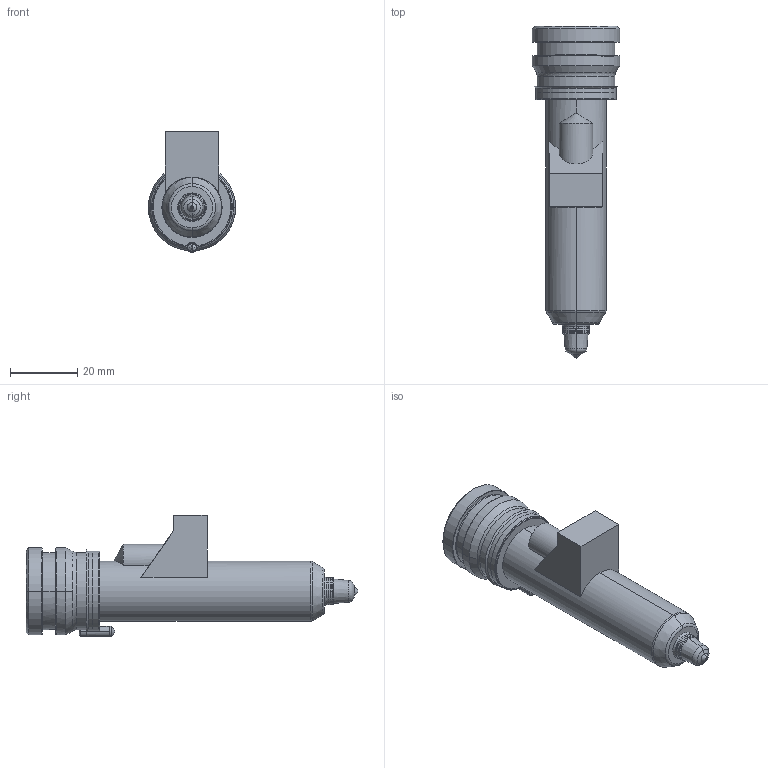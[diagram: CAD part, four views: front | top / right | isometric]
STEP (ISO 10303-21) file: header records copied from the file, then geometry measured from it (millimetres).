
FILE_DESCRIPTION((''),'2;1');
FILE_NAME('TH18081-M-1B50-PK-JG','2023-12-14T',('umhib'),('Thermoplay S.p.A.'),'PRO/ENGINEER BY PARAMETRIC TECHNOLOGY CORPORATION, 2017170','PRO/ENGINEER BY PARAMETRIC TECHNOLOGY CORPORATION, 2017170','');
FILE_SCHEMA(('CONFIG_CONTROL_DESIGN'));
Length unit declared in the file: millimetre
Products named in the file (1): TH18081-M-1B50-PK-JG
Bounding box: 26 x 99 x 36.1 mm (x, y, z)
Volume: 20720.9 mm3; surface area: 16172.8 mm2
Topology: 1 solids, 2 shells, 389 faces, 993 edges, 609 vertices
Faces by surface type: cylinder 149, plane 87, cone 62, torus 56, bspline 22, sphere 11, extrusion 2
Entity records: 16891 total; most frequent: CARTESIAN_POINT 5248, DIRECTION 1992, ORIENTED_EDGE 1960, EDGE_CURVE 982, AXIS2_PLACEMENT_3D 802, VERTEX_POINT 609, CIRCLE 436, EDGE_LOOP 412
